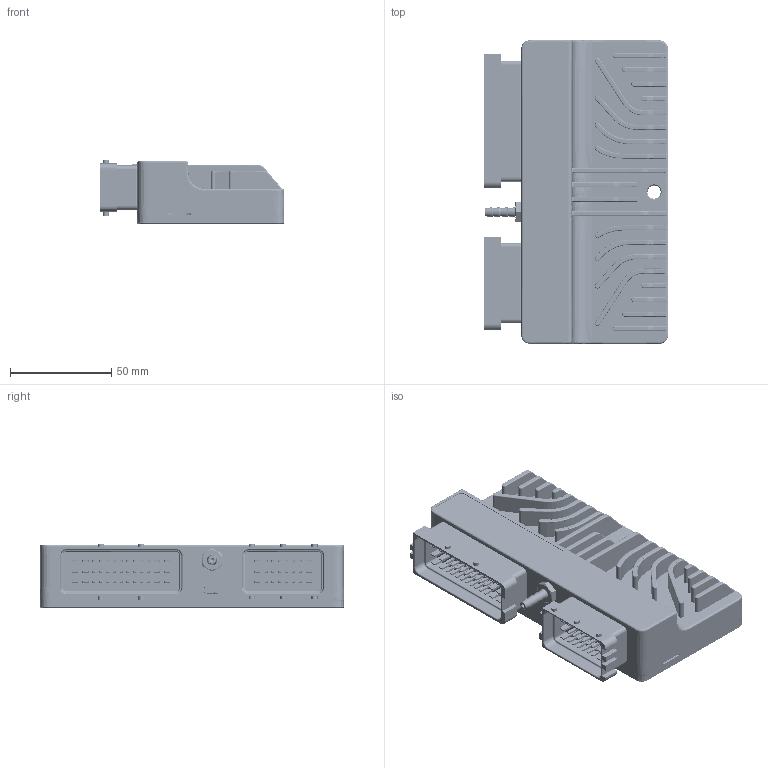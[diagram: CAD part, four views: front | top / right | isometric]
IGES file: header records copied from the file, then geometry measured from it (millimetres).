
Start section: SolidWorks IGES file using analytic representation for surfaces
Global section: file name: C:\Users\asus\Dropbox\CAD\EMU Black\EMU Black.IGS; native system: SolidWorks 2017; preprocessor: SolidWorks 2017; author: asus; date: 190308.091000; units: millimetre
Bounding box: 91.1 x 150 x 32.1 mm (x, y, z)
Surface area: 135095.2 mm2 (no closed solid volume)
Topology: 0 solids, 0 shells, 4094 faces, 32451 edges, 32409 vertices
Faces by surface type: bspline 3081, revolution 1013
